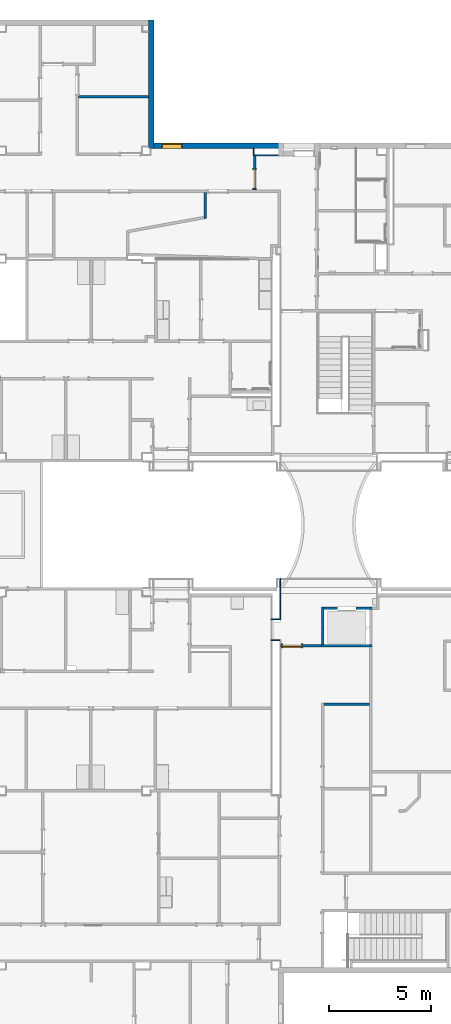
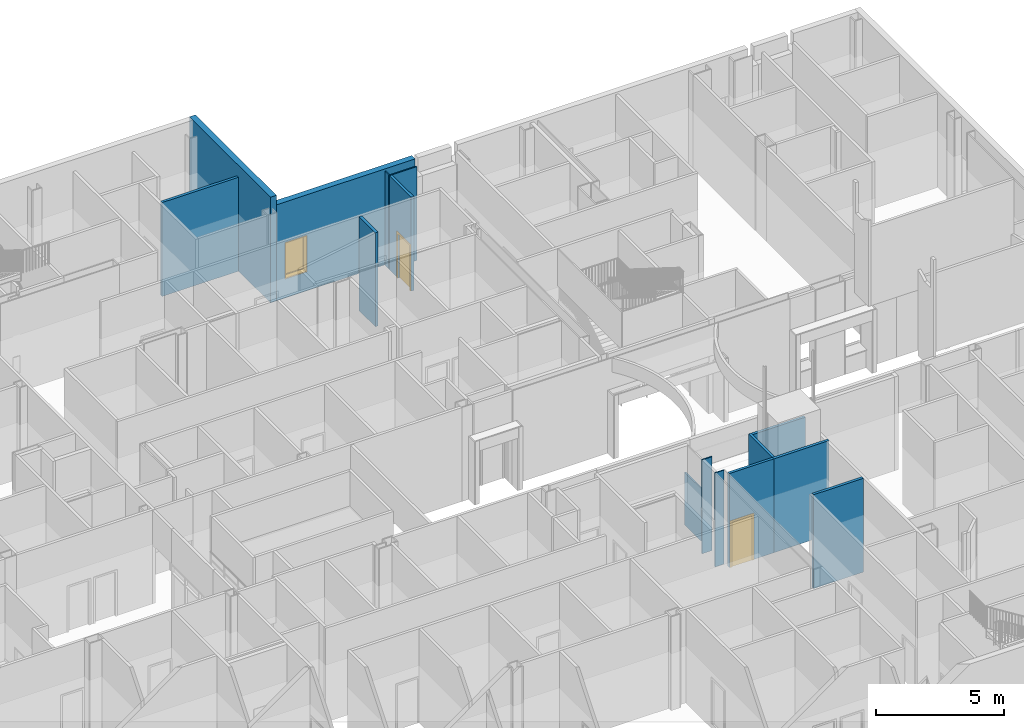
# One storey, part 35 of 87: 15 walls, 2 doors, 1 window, 4 openings.
"""IFC2X3 building model written with IfcOpenShell, lengths in metres."""

from ifc_helpers import new_model, entity, si_unit, converted_unit, frame, frame_2d, origin, origin_2d_with_axis, place, context, project, spatial, polyline, rectangle, outline, extrude, source, transform, mapped, material, layer, layer_set, layer_usage, type_object, type_shapes, element, fill, save


model = new_model("IFC2X3")

# Units and contexts
model_context = context("Model", 3, precision=1e-09, world=origin())
plan_context = context("Plan", 3, precision=1e-09, world=origin())
ifc_project = project(units=[si_unit("LENGTHUNIT", "METRE"), si_unit("AREAUNIT", "SQUARE_METRE"), si_unit("VOLUMEUNIT", "CUBIC_METRE"), converted_unit("PLANEANGLEUNIT", "DEGREE", entity("IfcRatioMeasure", 0.01745329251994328), si_unit("PLANEANGLEUNIT", "RADIAN"), dimensions=[0, 0, 0, 0, 0, 0, 0]), si_unit("TIMEUNIT", "SECOND")], contexts=[model_context, plan_context])

# Site, building, storey
site_placement = place(None, origin())
site = spatial("IfcSite", under=ifc_project, at=site_placement, Name="Default", CompositionType="ELEMENT")
building_placement = place(site_placement, origin())
building = spatial("IfcBuilding", under=site, at=building_placement, CompositionType="ELEMENT")
storey_placement = place(building_placement, origin())
storey = spatial("IfcBuildingStorey", under=building, at=storey_placement, Name="First Floor", CompositionType="ELEMENT", Elevation=-3.531500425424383e-13)

# Wall
ifc_material_1 = material(Name="Insulation - Insulated Panel")
ifc_layer_1 = layer(ifc_material_1, 0.042)
ifc_material_2 = material(Name="Metal - Firring")
ifc_layer_2 = layer(ifc_material_2, 0.038)
ifc_material_3 = material(Name="Wood - Sheathing - plywood")
ifc_layer_3 = layer(ifc_material_3, 0.019)
ifc_material_4 = material(Name="Metal - Stud Layer")
ifc_layer_4 = layer(ifc_material_4, 0.152)
ifc_material_5 = material(Name="Plasterboard")
ifc_layer_5 = layer(ifc_material_5, 0.016)
ifc_layer_set_1 = layer_set([ifc_layer_1, ifc_layer_2, ifc_layer_3, ifc_layer_4, ifc_layer_5], Name="Basic Wall:Exterior - Insul Panel on Mtl. Stud")
ifc_layer_usage_1 = layer_usage(ifc_layer_set_1, "AXIS2", "NEGATIVE", 0.1335)
wall_1_placement = place(storey_placement, frame((-26.19350000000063, 56.5199999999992, 0.0), z_axis=(0.0, 0.0, 1.0), x_axis=(0.0, -1.0, 0.0)))
element("IfcWallStandardCase", 1, at=wall_1_placement, inside=storey, material=ifc_layer_usage_1, Name="Basic Wall:Exterior - Insul Panel on Mtl. Stud", ObjectType="Basic Wall:Exterior - Insul Panel on Mtl. Stud", context=model_context, shape_type="SweptSolid", body=[
    extrude(rectangle(XDim=6.31699999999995, YDim=0.2669999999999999, at=frame_2d((3.158499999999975, 0.0), x_axis=(-1.0, 0.0))), origin(), (0.0, 0.0, 1.0), 5.02700000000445),
])

# Wall, opening, window
ifc_layer_usage_2 = layer_usage(ifc_layer_set_1, "AXIS2", "NEGATIVE", 0.1335)
wall_2_placement = place(storey_placement, frame((-26.06000000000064, 50.33649999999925, 0.0)))
wall_2 = element("IfcWallStandardCase", 2, at=wall_2_placement, inside=storey, material=ifc_layer_usage_2, Name="Basic Wall:Exterior - Insul Panel on Mtl. Stud", ObjectType="Basic Wall:Exterior - Insul Panel on Mtl. Stud", context=model_context, shape_type="SweptSolid", body=[
    extrude(rectangle(XDim=6.244500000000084, YDim=0.2670000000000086, at=frame_2d((3.122250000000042, 0.0), x_axis=(-1.0, 0.0))), origin(), (0.0, 0.0, 1.0), 4.57000000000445),
])
opening_1_placement = place(wall_2_placement, frame((0.3799999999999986, -0.1335000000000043, 0.9049999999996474)))
opening_1 = element("IfcOpeningElement", 3, at=opening_1_placement, cuts=wall_2, Name="M_Fixed:1735 x 1000mm:1735 x 1000mm:1", ObjectType="Opening", context=model_context, shape_type="SweptSolid", body=[
    extrude(rectangle(XDim=1.734999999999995, YDim=0.9999999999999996, at=frame_2d((0.8674999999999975, 0.4999999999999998), x_axis=(1.0, 0.0))), frame((0.0, 0.0, 0.0), z_axis=(0.0, 1.0, 0.0), x_axis=(0.0, 0.0, 1.0)), (0.0, 0.0, 1.0), 0.267),
])
window_style = type_object("IfcWindowStyle", Name="1735 x 1000mm", ConstructionType="NOTDEFINED", OperationType="NOTDEFINED", ParameterTakesPrecedence=False, Sizeable=False)
shared_shape_1 = source(origin(), model_context, "Body", "SweptSolid", [
    extrude(rectangle(XDim=0.012, YDim=0.873999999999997, at=origin_2d_with_axis()), frame((0.5000000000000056, 0.2259999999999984, 0.06299999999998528), z_axis=(0.0, 0.0, 1.0), x_axis=(0.0, -1.0, 0.0)), (0.0, 0.0, 1.0), 1.609000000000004),
    extrude(outline(polyline([(-0.4809999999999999, -0.8485000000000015), (0.4809999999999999, -0.8485000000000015), (0.4809999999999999, 0.8485000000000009), (-0.4809999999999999, 0.8485000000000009), (-0.4809999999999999, -0.8485000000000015)]), holes=[polyline([(-0.4369999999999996, -0.8045000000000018), (-0.4369999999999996, 0.8045000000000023), (0.4369999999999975, 0.8045000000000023), (0.4369999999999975, -0.8045000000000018), (-0.4369999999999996, -0.8045000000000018)])]), frame((0.5000000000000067, 0.203999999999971, 0.8674999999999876), z_axis=(0.0, 1.0, 0.0), x_axis=(1.0, 0.0, 0.0)), (0.0, 0.0, 1.0), 0.04400000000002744),
    extrude(outline(polyline([(-0.4999999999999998, -0.8674999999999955), (0.4999999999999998, -0.8674999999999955), (0.4999999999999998, 0.8674999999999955), (-0.4999999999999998, 0.8674999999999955), (-0.4999999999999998, -0.8674999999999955)]), holes=[polyline([(-0.4810000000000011, -0.8484999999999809), (-0.4810000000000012, 0.8485000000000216), (0.4809999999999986, 0.8485000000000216), (0.4809999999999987, -0.8484999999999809), (-0.4810000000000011, -0.8484999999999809)])]), frame((0.500000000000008, 0.203999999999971, 0.8675000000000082), z_axis=(0.0, 1.0, 0.0), x_axis=(1.0, 0.0, 0.0)), (0.0, 0.0, 1.0), 0.06300000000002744),
    extrude(outline(polyline([(-0.5000000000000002, -0.867499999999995), (0.5000000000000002, -0.867499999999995), (0.5000000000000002, 0.867499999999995), (-0.5000000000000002, 0.867499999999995), (-0.5000000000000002, -0.867499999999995)]), holes=[polyline([(-0.4679999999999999, -0.8354999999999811), (-0.4679999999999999, 0.8355000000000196), (0.4680000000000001, 0.8355000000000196), (0.4680000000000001, -0.8354999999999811), (-0.4679999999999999, -0.8354999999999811)])]), frame((0.5000000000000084, 0.0, 0.8675000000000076), z_axis=(0.0, 1.0, 0.0), x_axis=(1.0, 0.0, 0.0)), (0.0, 0.0, 1.0), 0.2039999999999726),
])
type_shapes(window_style, [shared_shape_1])
window_placement = place(opening_1_placement, origin())
window = element("IfcWindow", 4, at=window_placement, inside=storey, type_object=window_style, Name="M_Fixed:1735 x 1000mm:1735 x 1000mm", ObjectType="1735 x 1000mm", OverallHeight=1.734999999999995, OverallWidth=0.9999999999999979, context=model_context, shape_type="MappedRepresentation", body=[
    mapped(shared_shape_1, transform((0.0, 0.0, 0.0), scale=1.0)),
])
fill(opening_1, window)

# Wall
ifc_layer_6 = layer(ifc_material_5, 0.016)
ifc_layer_7 = layer(ifc_material_4, 0.092)
ifc_layer_8 = layer(ifc_material_5, 0.016)
ifc_layer_set_2 = layer_set([ifc_layer_6, ifc_layer_7, ifc_layer_8], Name="Basic Wall:Interior - Partition (92mm Stud)")
ifc_layer_usage_3 = layer_usage(ifc_layer_set_2, "AXIS2", "NEGATIVE", 0.062)
wall_3_placement = place(storey_placement, frame((-26.32700000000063, 52.75199999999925, 0.0), z_axis=(0.0, 0.0, 1.0), x_axis=(-1.0, 0.0, 0.0)))
element("IfcWallStandardCase", 5, at=wall_3_placement, inside=storey, material=ifc_layer_usage_3, Name="Basic Wall:Interior - Partition (92mm Stud)", ObjectType="Basic Wall:Interior - Partition (92mm Stud)", context=model_context, shape_type="SweptSolid", body=[
    extrude(rectangle(XDim=3.439000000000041, YDim=0.1240000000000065, at=frame_2d((1.719500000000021, 0.0), x_axis=(-1.0, 0.0))), origin(), (0.0, 0.0, 1.0), 4.46800000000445),
])

# Wall, opening, door
ifc_layer_usage_4 = layer_usage(ifc_layer_set_2, "AXIS2", "NEGATIVE", 0.062)
wall_4_placement = place(storey_placement, frame((-21.11800000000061, 48.14999999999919, 0.0), z_axis=(0.0, 0.0, 1.0), x_axis=(0.0, 1.0, 0.0)))
wall_4 = element("IfcWallStandardCase", 6, at=wall_4_placement, inside=storey, material=ifc_layer_usage_4, Name="Basic Wall:Interior - Partition (92mm Stud)", ObjectType="Basic Wall:Interior - Partition (92mm Stud)", context=model_context, shape_type="SweptSolid", body=[
    extrude(rectangle(XDim=1.693000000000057, YDim=0.1239999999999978, at=frame_2d((0.8465000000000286, 0.0), x_axis=(-1.0, 0.0))), origin(), (0.0, 0.0, 1.0), 4.46800000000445),
])
opening_2_placement = place(wall_4_placement, frame((1.015000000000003, 0.0619999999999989, 0.0)))
opening_2 = element("IfcOpeningElement", 7, at=opening_2_placement, cuts=wall_4, Name="M_Single-Flush:0915 x 2134mm:0915 x 2134mm:1", ObjectType="Opening", context=model_context, shape_type="SweptSolid", body=[
    extrude(rectangle(XDim=0.9149999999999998, YDim=2.134, at=frame_2d((1.067, 0.4575), x_axis=(0.0, 1.0))), frame((0.0, 0.0, 0.0), z_axis=(0.0, -1.0, 0.0), x_axis=(0.0, 0.0, 1.0)), (0.0, 0.0, 1.0), 0.124),
])
door_style = type_object("IfcDoorStyle", Name="0915 x 2134mm", ConstructionType="NOTDEFINED", OperationType="SINGLE_SWING_RIGHT", ParameterTakesPrecedence=False, Sizeable=False)
shared_shape_2 = source(origin(), model_context, "Body", "SweptSolid", [
    extrude(outline(polyline([(-0.5335, -1.123999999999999), (0.5334999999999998, -1.123999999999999), (0.5334999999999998, 1.086), (0.4574999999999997, 1.086), (0.4574999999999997, -1.048000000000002), (-0.4574999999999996, -1.048000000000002), (-0.4574999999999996, 1.086), (-0.5335, 1.086), (-0.5335, -1.123999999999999)])), frame((0.4575000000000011, 0.1239999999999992, 1.086), z_axis=(0.0, 1.0, 0.0), x_axis=(1.0, 0.0, 0.0)), (0.0, 0.0, 1.0), 0.02499999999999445),
    extrude(outline(polyline([(-1.123999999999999, -0.5334999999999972), (1.085999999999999, -0.5334999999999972), (1.085999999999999, -0.4575000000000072), (-1.048, -0.4575000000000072), (-1.048, 0.4575000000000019), (1.085999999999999, 0.4575000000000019), (1.085999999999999, 0.5335000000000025), (-1.123999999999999, 0.5335000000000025), (-1.123999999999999, -0.5334999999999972)])), frame((0.4575000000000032, -0.02500000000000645, 1.085999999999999), z_axis=(0.0, 1.0, 0.0), x_axis=(0.0, 0.0, -1.0)), (0.0, 0.0, 1.0), 0.02500000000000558),
    extrude(rectangle(XDim=0.051, YDim=0.9149999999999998, at=origin_2d_with_axis()), frame((0.4575000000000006, 0.09849999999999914, 0.0), z_axis=(0.0, 0.0, 1.0), x_axis=(0.0, 1.0, 0.0)), (0.0, 0.0, 1.0), 2.133999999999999),
])
type_shapes(door_style, [shared_shape_2])
door_1_placement = place(opening_2_placement, frame((0.0, 0.0, 0.0), z_axis=(0.0, 0.0, 1.0), x_axis=(-1.0, 0.0, 0.0)))
door_1 = element("IfcDoor", 8, at=door_1_placement, inside=storey, type_object=door_style, Name="M_Single-Flush:0915 x 2134mm:0915 x 2134mm", ObjectType="0915 x 2134mm", OverallHeight=2.134, OverallWidth=0.9149999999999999, context=model_context, shape_type="MappedRepresentation", body=[
    mapped(shared_shape_2, transform((0.0, 0.0, 0.0), scale=1.0)),
])
fill(opening_2, door_1)

# Walls
ifc_layer_usage_5 = layer_usage(ifc_layer_set_2, "AXIS2", "NEGATIVE", 0.062)
wall_5_placement = place(storey_placement, frame((-23.53700000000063, 48.0259999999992, 0.0), z_axis=(0.0, 0.0, 1.0), x_axis=(0.0, -1.0, 0.0)))
element("IfcWallStandardCase", 9, at=wall_5_placement, inside=storey, material=ifc_layer_usage_5, Name="Basic Wall:Interior - Partition (92mm Stud)", ObjectType="Basic Wall:Interior - Partition (92mm Stud)", context=model_context, shape_type="SweptSolid", body=[
    extrude(outline(polyline([(1.283753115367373, -0.06200000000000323), (1.260970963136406, 0.0619999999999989), (0.0, 0.0619999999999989), (0.0, -0.06200000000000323), (1.15767763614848, -0.06200000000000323), (1.283753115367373, -0.06200000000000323)])), origin(), (0.0, 0.0, 1.0), 4.46800000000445),
])
ifc_layer_usage_6 = layer_usage(ifc_layer_set_2, "AXIS2", "NEGATIVE", 0.062)
wall_6_placement = place(storey_placement, frame((-17.70600000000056, 22.85803069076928, 0.0)))
element("IfcWallStandardCase", 10, at=wall_6_placement, inside=storey, material=ifc_layer_usage_6, Name="Basic Wall:Interior - Partition (92mm Stud)", ObjectType="Basic Wall:Interior - Partition (92mm Stud)", context=model_context, shape_type="SweptSolid", body=[
    extrude(rectangle(XDim=2.24599999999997, YDim=0.1239999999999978, at=frame_2d((1.122999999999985, 0.0), x_axis=(-1.0, 0.0))), origin(), (0.0, 0.0, 1.0), 4.46800000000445),
])
ifc_material_6 = material(Name="Type-X Plasterboard")
ifc_layer_9 = layer(ifc_material_6, 0.016)
ifc_layer_10 = layer(ifc_material_4, 0.092)
ifc_layer_11 = layer(ifc_material_6, 0.016)
ifc_layer_set_3 = layer_set([ifc_layer_9, ifc_layer_10, ifc_layer_11], Name="Basic Wall:Interior - Rated 1-HR (92mm Stud)")
ifc_layer_usage_7 = layer_usage(ifc_layer_set_3, "AXIS2", "NEGATIVE", 0.06200000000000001)
wall_7_placement = place(storey_placement, frame((-15.33600000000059, 25.74539999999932, 0.0), z_axis=(0.0, 0.0, 1.0), x_axis=(-1.0, 0.0, 0.0)))
element("IfcWallStandardCase", 11, at=wall_7_placement, inside=storey, material=ifc_layer_usage_7, Name="Basic Wall:Interior - Rated 1-HR (92mm Stud)", ObjectType="Basic Wall:Interior - Rated 1-HR (92mm Stud)", context=model_context, shape_type="SweptSolid", body=[
    extrude(rectangle(XDim=2.493200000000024, YDim=0.1239999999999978, at=frame_2d((1.246600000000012, 0.0), x_axis=(-1.0, 0.0))), origin(), (0.0, 0.0, 1.0), 4.468000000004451),
])
ifc_layer_usage_8 = layer_usage(ifc_layer_set_3, "AXIS2", "NEGATIVE", 0.06200000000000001)
wall_8_placement = place(storey_placement, frame((-17.76720000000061, 25.80739999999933, 0.0), z_axis=(0.0, 0.0, 1.0), x_axis=(0.0, 1.0, 0.0)))
element("IfcWallStandardCase", 12, at=wall_8_placement, inside=storey, material=ifc_layer_usage_8, Name="Basic Wall:Interior - Rated 1-HR (92mm Stud)", ObjectType="Basic Wall:Interior - Rated 1-HR (92mm Stud)", context=model_context, shape_type="SweptSolid", body=[
    extrude(rectangle(XDim=1.838499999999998, YDim=0.1240000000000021, at=frame_2d((0.919249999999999, 0.0), x_axis=(-1.0, 0.0))), origin(), (0.0, 0.0, 1.0), 4.46800000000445),
])

# Wall, opening
ifc_layer_usage_9 = layer_usage(ifc_layer_set_3, "AXIS2", "NEGATIVE", 0.06200000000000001)
wall_9_placement = place(storey_placement, frame((-17.70520000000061, 27.58389999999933, 0.0)))
wall_9 = element("IfcWallStandardCase", 13, at=wall_9_placement, inside=storey, material=ifc_layer_usage_9, Name="Basic Wall:Interior - Rated 1-HR (92mm Stud)", ObjectType="Basic Wall:Interior - Rated 1-HR (92mm Stud)", context=model_context, shape_type="SweptSolid", body=[
    extrude(rectangle(XDim=2.369200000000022, YDim=0.1239999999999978, at=frame_2d((1.184600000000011, 0.0), x_axis=(-1.0, 0.0))), origin(), (0.0, 0.0, 1.0), 4.46800000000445),
])
opening_3_placement = place(wall_9_placement, frame((1.117599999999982, 0.0619999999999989, 1.067000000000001)))
element("IfcOpeningElement", 14, at=opening_3_placement, cuts=wall_9, Name="Basic Wall:Interior - Rated 1-HR (92mm Stud):2", ObjectType="Opening", context=model_context, shape_type="SweptSolid", body=[
    extrude(rectangle(XDim=2.134, YDim=0.9144000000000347, at=frame_2d((0.0, 0.0), x_axis=(0.0, 1.0))), frame((0.0, 0.0, 0.0), z_axis=(0.0, -1.0, 0.0), x_axis=(1.0, 0.0, 0.0)), (0.0, 0.0, 1.0), 0.124),
])

# Walls
ifc_layer_12 = layer(ifc_material_4, 0.038)
ifc_layer_13 = layer(ifc_material_5, 0.016)
ifc_layer_set_4 = layer_set([ifc_layer_12, ifc_layer_13], Name="Basic Wall:Interior - Furring (38 mm Stud)")
ifc_layer_usage_10 = layer_usage(ifc_layer_set_4, "AXIS2", "NEGATIVE", 0.027)
wall_10_placement = place(storey_placement, frame((-20.29000000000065, 27.04199999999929, 0.0)))
element("IfcWallStandardCase", 15, at=wall_10_placement, inside=storey, material=ifc_layer_usage_10, Name="Basic Wall:Interior - Furring (38 mm Stud)", ObjectType="Basic Wall:Interior - Furring (38 mm Stud)", context=model_context, shape_type="SweptSolid", body=[
    extrude(rectangle(XDim=0.4600000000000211, YDim=0.05399999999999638, at=frame_2d((0.2300000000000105, 0.0), x_axis=(-1.0, 0.0))), origin(), (0.0, 0.0, 1.0), 4.468000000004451),
])
ifc_layer_usage_11 = layer_usage(ifc_layer_set_4, "AXIS2", "NEGATIVE", 0.027)
wall_11_placement = place(storey_placement, frame((-19.85700000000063, 27.06899999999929, 0.0), z_axis=(0.0, 0.0, 1.0), x_axis=(0.0, 1.0, 0.0)))
element("IfcWallStandardCase", 16, at=wall_11_placement, inside=storey, material=ifc_layer_usage_11, Name="Basic Wall:Interior - Furring (38 mm Stud)", ObjectType="Basic Wall:Interior - Furring (38 mm Stud)", context=model_context, shape_type="SweptSolid", body=[
    extrude(rectangle(XDim=2.001000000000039, YDim=0.05399999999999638, at=frame_2d((1.00050000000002, 0.0), x_axis=(-1.0, 0.0))), origin(), (0.0, 0.0, 1.0), 2.5),
])
ifc_layer_usage_12 = layer_usage(ifc_layer_set_4, "AXIS2", "NEGATIVE", 0.027)
wall_12_placement = place(storey_placement, frame((-19.88400000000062, 26.01899999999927, 0.0), z_axis=(0.0, 0.0, 1.0), x_axis=(-1.0, 0.0, 0.0)))
element("IfcWallStandardCase", 17, at=wall_12_placement, inside=storey, material=ifc_layer_usage_12, Name="Basic Wall:Interior - Furring (38 mm Stud)", ObjectType="Basic Wall:Interior - Furring (38 mm Stud)", context=model_context, shape_type="SweptSolid", body=[
    extrude(rectangle(XDim=0.406000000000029, YDim=0.05399999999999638, at=frame_2d((0.2030000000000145, 0.0), x_axis=(-1.0, 0.0))), origin(), (0.0, 0.0, 1.0), 4.46800000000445),
])
ifc_layer_usage_13 = layer_usage(ifc_layer_set_4, "AXIS2", "POSITIVE", -0.027)
wall_13_placement = place(storey_placement, frame((-19.94900000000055, 49.86999999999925, 0.0), z_axis=(0.0, 0.0, 1.0), x_axis=(-1.0, 0.0, 0.0)))
element("IfcWallStandardCase", 18, at=wall_13_placement, inside=storey, material=ifc_layer_usage_13, Name="Basic Wall:Interior - Furring (38 mm Stud)", ObjectType="Basic Wall:Interior - Furring (38 mm Stud)", context=model_context, shape_type="SweptSolid", body=[
    extrude(rectangle(XDim=1.231000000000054, YDim=0.05400000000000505, at=frame_2d((0.6155000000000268, 0.0), x_axis=(-1.0, 0.0))), origin(), (0.0, 0.0, 1.0), 4.46800000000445),
])
ifc_layer_usage_14 = layer_usage(ifc_layer_set_4, "AXIS2", "POSITIVE", -0.027)
wall_14_placement = place(storey_placement, frame((-21.15300000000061, 49.89699999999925, 0.0), z_axis=(0.0, 0.0, 1.0), x_axis=(0.0, 1.0, 0.0)))
element("IfcWallStandardCase", 19, at=wall_14_placement, inside=storey, material=ifc_layer_usage_14, Name="Basic Wall:Interior - Furring (38 mm Stud)", ObjectType="Basic Wall:Interior - Furring (38 mm Stud)", context=model_context, shape_type="SweptSolid", body=[
    extrude(rectangle(XDim=0.3059999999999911, YDim=0.05399999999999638, at=frame_2d((0.1529999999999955, 0.0), x_axis=(-1.0, 0.0))), origin(), (0.0, 0.0, 1.0), 4.46800000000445),
])

# Wall, opening, door
ifc_layer_usage_15 = layer_usage(ifc_layer_set_2, "AXIS2", "NEGATIVE", 0.062)
wall_15_placement = place(storey_placement, frame((-17.82920000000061, 25.74539999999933, 0.0), z_axis=(0.0, 0.0, 1.0), x_axis=(-1.0, 0.0, 0.0)))
wall_15 = element("IfcWallStandardCase", 20, at=wall_15_placement, inside=storey, material=ifc_layer_usage_15, Name="Basic Wall:Interior - Partition (92mm Stud)", ObjectType="Basic Wall:Interior - Partition (92mm Stud)", context=model_context, shape_type="SweptSolid", body=[
    extrude(rectangle(XDim=2.000800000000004, YDim=0.1239999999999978, at=frame_2d((1.000400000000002, 0.0), x_axis=(-1.0, 0.0))), origin(), (0.0, 0.0, 1.0), 4.46800000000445),
])
opening_4_placement = place(wall_15_placement, frame((0.9858000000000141, -0.06200000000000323, 0.0)))
opening_4 = element("IfcOpeningElement", 21, at=opening_4_placement, cuts=wall_15, Name=":1", ObjectType="Opening", context=model_context, shape_type="SweptSolid", body=[
    extrude(rectangle(XDim=0.9149999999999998, YDim=2.134, at=frame_2d((1.067, 0.4574999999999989), x_axis=(0.0, 1.0))), frame((0.0, 0.0, 0.0), z_axis=(0.0, 1.0, 0.0), x_axis=(0.0, 0.0, 1.0)), (0.0, 0.0, 1.0), 0.124),
])
door_2_placement = place(opening_4_placement, origin())
door_2 = element("IfcDoor", 22, at=door_2_placement, inside=storey, type_object=door_style, Name="M_Single-Flush:0915 x 2134mm:0915 x 2134mm", ObjectType="0915 x 2134mm", OverallHeight=2.134, OverallWidth=0.9149999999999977, context=model_context, shape_type="MappedRepresentation", body=[
    mapped(shared_shape_2, transform((0.0, 0.0, 0.0), scale=1.0)),
])
fill(opening_4, door_2)

save(model, "model.ifc")
